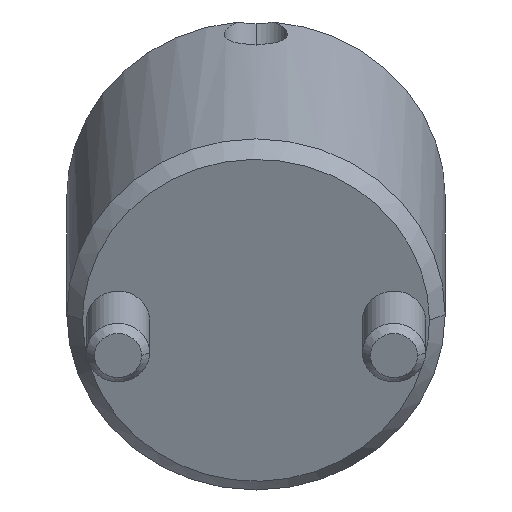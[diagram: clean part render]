
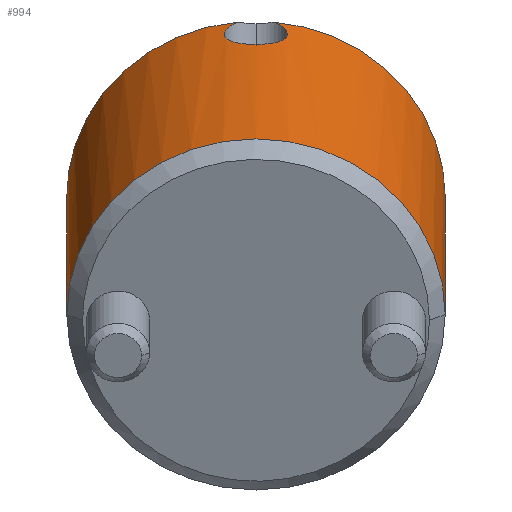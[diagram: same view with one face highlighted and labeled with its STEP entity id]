
A CAD part, top view. The second image highlights one B-rep face of the part: STEP entity #994.
In plain terms, the highlighted cylindrical face has radius 12 mm (diameter 24 mm), a partial arc.
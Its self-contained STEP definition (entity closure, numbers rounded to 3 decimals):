
#760=CARTESIAN_POINT('Vertex',(0.,12.,1.)) ;
#763=CARTESIAN_POINT('Axis2P3D Location',(0.,0.,1.)) ;
#767=CARTESIAN_POINT('Vertex',(0.,-12.,1.)) ;
#907=CARTESIAN_POINT('Axis2P3D Location',(0.,0.,-1.1)) ;
#913=CARTESIAN_POINT('Control Point',(11.948,-1.115,21.)) ;
#914=CARTESIAN_POINT('Control Point',(11.619,-4.646,21.)) ;
#915=CARTESIAN_POINT('Control Point',(9.987,-8.058,21.)) ;
#916=CARTESIAN_POINT('Control Point',(7.096,-10.693,21.)) ;
#917=CARTESIAN_POINT('Control Point',(3.547,-12.,21.)) ;
#918=CARTESIAN_POINT('Control Point',(0.,-12.,21.)) ;
#919=CARTESIAN_POINT('Vertex',(11.948,-1.115,21.)) ;
#921=CARTESIAN_POINT('Vertex',(0.,-12.,21.)) ;
#924=CARTESIAN_POINT('Line Origine',(0.,-12.,-1.1)) ;
#929=CARTESIAN_POINT('Line Origine',(0.,12.,-1.1)) ;
#933=CARTESIAN_POINT('Vertex',(0.,12.,21.)) ;
#936=CARTESIAN_POINT('Axis2P3D Location',(0.,0.,21.)) ;
#940=CARTESIAN_POINT('Vertex',(11.948,1.115,21.)) ;
#944=CARTESIAN_POINT('Control Point',(11.948,1.115,21.)) ;
#945=CARTESIAN_POINT('Control Point',(11.932,1.288,20.868)) ;
#946=CARTESIAN_POINT('Control Point',(11.915,1.44,20.716)) ;
#947=CARTESIAN_POINT('Control Point',(11.897,1.574,20.545)) ;
#948=CARTESIAN_POINT('Control Point',(11.865,1.804,20.169)) ;
#949=CARTESIAN_POINT('Control Point',(11.842,1.941,19.754)) ;
#950=CARTESIAN_POINT('Control Point',(11.834,1.986,19.534)) ;
#951=CARTESIAN_POINT('Control Point',(11.828,2.025,19.096)) ;
#952=CARTESIAN_POINT('Control Point',(11.839,1.96,18.659)) ;
#953=CARTESIAN_POINT('Control Point',(11.849,1.903,18.45)) ;
#954=CARTESIAN_POINT('Control Point',(11.875,1.738,18.056)) ;
#955=CARTESIAN_POINT('Control Point',(11.909,1.482,17.719)) ;
#956=CARTESIAN_POINT('Control Point',(11.927,1.334,17.571)) ;
#957=CARTESIAN_POINT('Control Point',(11.961,1.004,17.316)) ;
#958=CARTESIAN_POINT('Control Point',(11.986,0.619,17.155)) ;
#959=CARTESIAN_POINT('Control Point',(11.995,0.415,17.1)) ;
#960=CARTESIAN_POINT('Control Point',(12.,0.209,17.073)) ;
#961=CARTESIAN_POINT('Control Point',(12.,0.,17.073)) ;
#962=CARTESIAN_POINT('Vertex',(12.,0.,17.073)) ;
#966=CARTESIAN_POINT('Control Point',(12.,0.,17.073)) ;
#967=CARTESIAN_POINT('Control Point',(12.,-0.345,17.073)) ;
#968=CARTESIAN_POINT('Control Point',(11.988,-0.681,17.147)) ;
#969=CARTESIAN_POINT('Control Point',(11.963,-1.008,17.297)) ;
#970=CARTESIAN_POINT('Control Point',(11.921,-1.397,17.597)) ;
#971=CARTESIAN_POINT('Control Point',(11.883,-1.677,17.994)) ;
#972=CARTESIAN_POINT('Control Point',(11.872,-1.748,18.115)) ;
#973=CARTESIAN_POINT('Control Point',(11.849,-1.902,18.439)) ;
#974=CARTESIAN_POINT('Control Point',(11.834,-1.987,18.793)) ;
#975=CARTESIAN_POINT('Control Point',(11.83,-2.011,19.011)) ;
#976=CARTESIAN_POINT('Control Point',(11.831,-2.008,19.378)) ;
#977=CARTESIAN_POINT('Control Point',(11.843,-1.935,19.741)) ;
#978=CARTESIAN_POINT('Control Point',(11.85,-1.894,19.885)) ;
#979=CARTESIAN_POINT('Control Point',(11.87,-1.768,20.225)) ;
#980=CARTESIAN_POINT('Control Point',(11.897,-1.578,20.539)) ;
#981=CARTESIAN_POINT('Control Point',(11.914,-1.444,20.712)) ;
#982=CARTESIAN_POINT('Control Point',(11.932,-1.29,20.867)) ;
#983=CARTESIAN_POINT('Control Point',(11.948,-1.115,21.)) ;
#764=DIRECTION('Axis2P3D Direction',(0.,0.,1.)) ;
#908=DIRECTION('Axis2P3D Direction',(0.,-0.,1.)) ;
#909=DIRECTION('Axis2P3D XDirection',(0.,-1.,0.)) ;
#925=DIRECTION('Vector Direction',(0.,0.,1.)) ;
#930=DIRECTION('Vector Direction',(0.,0.,1.)) ;
#937=DIRECTION('Axis2P3D Direction',(0.,-0.,1.)) ;
#765=AXIS2_PLACEMENT_3D('Circle Axis2P3D',#763,#764,$) ;
#910=AXIS2_PLACEMENT_3D('Cylinder Axis2P3D',#907,#908,#909) ;
#938=AXIS2_PLACEMENT_3D('Circle Axis2P3D',#936,#937,$) ;
#986=ORIENTED_EDGE('',*,*,#923,.T.) ;
#987=ORIENTED_EDGE('',*,*,#928,.T.) ;
#988=ORIENTED_EDGE('',*,*,#769,.F.) ;
#989=ORIENTED_EDGE('',*,*,#935,.F.) ;
#990=ORIENTED_EDGE('',*,*,#942,.T.) ;
#991=ORIENTED_EDGE('',*,*,#964,.T.) ;
#992=ORIENTED_EDGE('',*,*,#984,.T.) ;
#926=VECTOR('Line Direction',#925,1.) ;
#931=VECTOR('Line Direction',#930,1.) ;
#994=ADVANCED_FACE('MANIFOLD_SOLID_BREP #1127',(#993),#911,.T.) ;
#912=B_SPLINE_CURVE_WITH_KNOTS('',5,(#913,#914,#915,#916,#917,#918),.UNSPECIFIED.,.F.,.U.,(6,6),(-8.867,8.867),.UNSPECIFIED.) ;
#943=B_SPLINE_CURVE_WITH_KNOTS('',5,(#944,#945,#946,#947,#948,#949,#950,#951,#952,#953,#954,#955,#956,#957,#958,#959,#960,#961),.UNSPECIFIED.,.F.,.U.,(6,3,3,3,3,6),(0.,1.457,3.029,4.555,6.053,7.556),.UNSPECIFIED.) ;
#965=B_SPLINE_CURVE_WITH_KNOTS('',5,(#966,#967,#968,#969,#970,#971,#972,#973,#974,#975,#976,#977,#978,#979,#980,#981,#982,#983),.UNSPECIFIED.,.F.,.U.,(6,3,3,3,3,6),(0.,2.482,3.488,5.036,6.081,7.554),.UNSPECIFIED.) ;
#766=CIRCLE('generated circle',#765,12.) ;
#939=CIRCLE('generated circle',#938,12.) ;
#911=CYLINDRICAL_SURFACE('generated cylinder',#910,12.) ;
#769=EDGE_CURVE('',#761,#768,#766,.F.) ;
#923=EDGE_CURVE('',#920,#922,#912,.T.) ;
#928=EDGE_CURVE('',#922,#768,#927,.F.) ;
#935=EDGE_CURVE('',#934,#761,#932,.F.) ;
#942=EDGE_CURVE('',#934,#941,#939,.F.) ;
#964=EDGE_CURVE('',#941,#963,#943,.T.) ;
#984=EDGE_CURVE('',#963,#920,#965,.T.) ;
#985=EDGE_LOOP('',(#986,#987,#988,#989,#990,#991,#992)) ;
#993=FACE_OUTER_BOUND('',#985,.T.) ;
#927=LINE('Line',#924,#926) ;
#932=LINE('Line',#929,#931) ;
#761=VERTEX_POINT('',#760) ;
#768=VERTEX_POINT('',#767) ;
#920=VERTEX_POINT('',#919) ;
#922=VERTEX_POINT('',#921) ;
#934=VERTEX_POINT('',#933) ;
#941=VERTEX_POINT('',#940) ;
#963=VERTEX_POINT('',#962) ;
